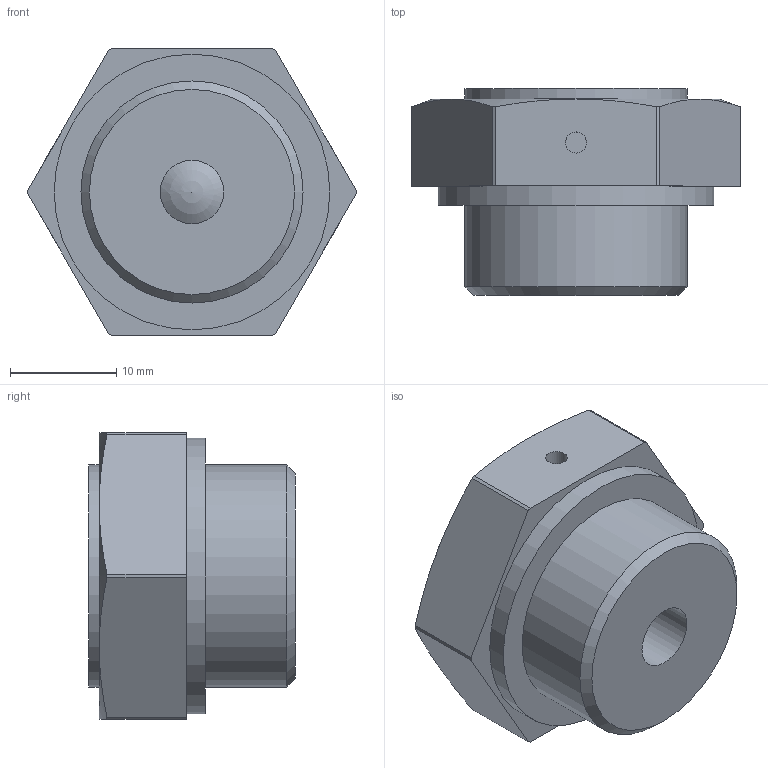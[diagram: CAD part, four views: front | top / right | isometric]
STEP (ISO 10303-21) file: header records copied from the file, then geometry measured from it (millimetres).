
FILE_DESCRIPTION( ( 'STEP AP203' ), '1' );
FILE_NAME( 'C:/Temp/Ganter_Step_05_03_2020/data/3_5/gn883/Breather valve GN 883-G1_2-20-A-MS.stp', '2020-03-12T13:42:46', ( 'License CC BY-ND 4.0' ), ( 'CADENAS' ), ' ', 'PARTsolutions', ' ' );
FILE_SCHEMA( ( 'CONFIG_CONTROL_DESIGN' ) );
Length unit declared in the file: millimetre
Products named in the file (1): _Breather valve GN 883-G1/2-20-A-MS
Bounding box: 31 x 19.5 x 27 mm (x, y, z)
Volume: 9215.2 mm3; surface area: 2923.1 mm2
Topology: 1 solids, 1 shells, 31 faces, 68 edges, 43 vertices
Faces by surface type: plane 12, cylinder 11, cone 7, sphere 1
Full cylindrical faces by diameter (mm): 2 x1, 6 x1, 20.955 x1, 20.96 x1, 26 x1
Entity records: 886 total; most frequent: CARTESIAN_POINT 193, DIRECTION 140, ORIENTED_EDGE 118, AXIS2_PLACEMENT_3D 61, EDGE_CURVE 59, EDGE_LOOP 42, VERTEX_POINT 42, FACE_OUTER_BOUND 36
